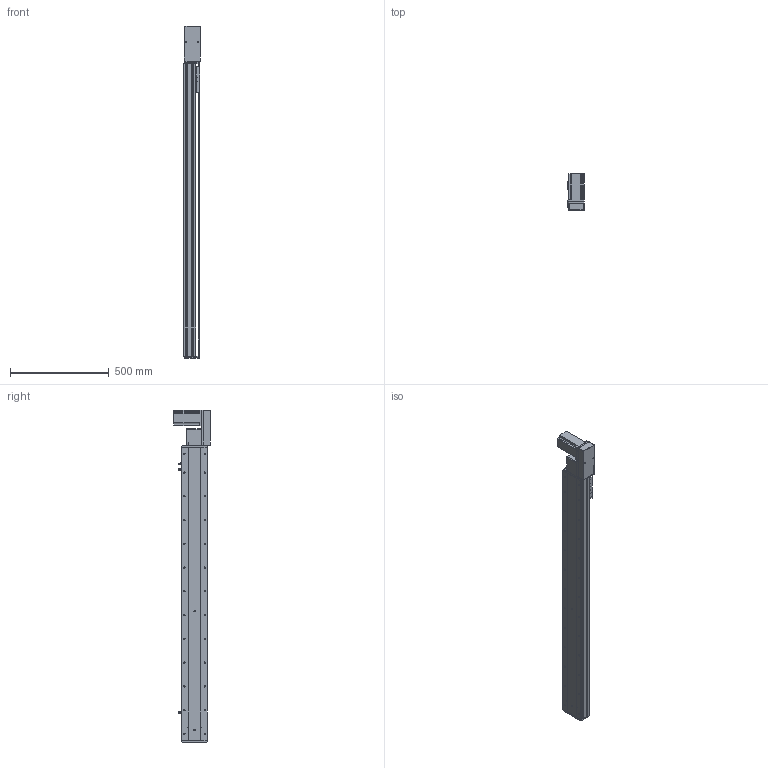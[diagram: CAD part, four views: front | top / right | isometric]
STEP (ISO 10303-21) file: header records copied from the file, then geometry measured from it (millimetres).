
FILE_DESCRIPTION (( 'STEP AP214' ), '1' );
FILE_NAME ('KSD130B-S1250-MLB-CM.STEP', '2019-11-14T02:53:10', ( '微软用户' ), ( '微软中国' ), 'SwSTEP 2.0', 'SolidWorks 2014', '' );
FILE_SCHEMA (( 'AUTOMOTIVE_DESIGN' ));
Length unit declared in the file: millimetre
Products named in the file (12): U倰嫖萇EEㄜSX672; 130宽盖板半封闭同步带-1250行程; 130宽马达安装板同步带左-改; 130宽马达安装板同步带半封闭; 130宽同步带安装座半封闭; 130宽端盖同步带半封闭; 130宽底板半封闭同步带-1250行程; KSD130B-S1250-MLB-CM; 台达ECMA－C20807AS伺服电机; 130宽模组保护罩上下左右折-同步带; 130宽模组马达安装板连板左右折同步带; 覜茼え100遵圉猾敕
Assembly tree (13 placements, depth 2):
  KSD130B-S1250-MLB-CM
    130宽底板半封闭同步带-1250行程
    130宽端盖同步带半封闭
    130宽同步带安装座半封闭
    130宽马达安装板同步带半封闭
    130宽马达安装板同步带左-改
    130宽盖板半封闭同步带-1250行程
    U倰嫖萇EEㄜSX672  x3
    覜茼え100遵圉猾敕
    130宽模组马达安装板连板左右折同步带
    130宽模组保护罩上下左右折-同步带
    台达ECMA－C20807AS伺服电机
Bounding box: 82.5 x 184.8 x 1677 mm (x, y, z)
Volume: 5662594.5 mm3; surface area: 1568685.7 mm2
Topology: 14 solids, 14 shells, 1599 faces, 4601 edges, 2931 vertices
Faces by surface type: cylinder 774, plane 634, cone 191
Entity records: 53347 total; most frequent: CARTESIAN_POINT 10076, DIRECTION 8083, ORIENTED_EDGE 7806, EDGE_CURVE 3903, AXIS2_PLACEMENT_3D 2958, VERTEX_POINT 2555, LINE 2167, VECTOR 2167
